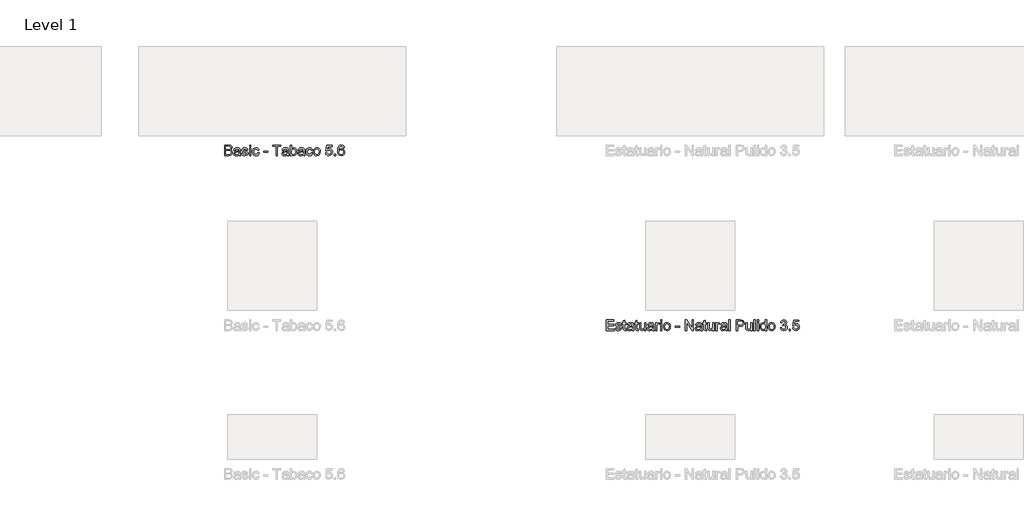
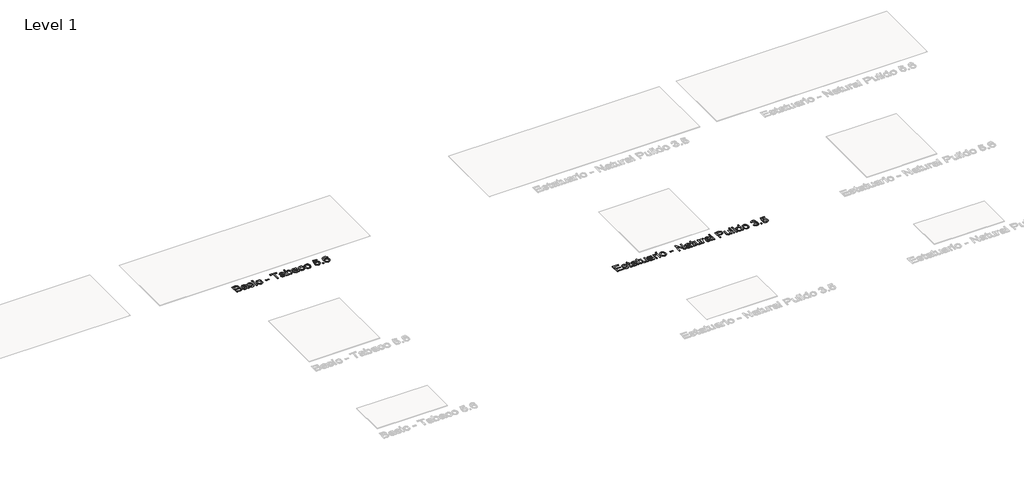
# One storey, part 76 of 80: 2 proxies.
"""IFC4 building model written with IfcOpenShell, lengths in millimetres."""

from ifc_helpers import new_model, si_unit, origin, origin_with_axes, place, context, project, spatial, polyline, outline, extrude, element, save

model = new_model("IFC4")

# Units and contexts
model_context = context("Model", 3, world=origin())
ifc_project = project(units=[si_unit("LENGTHUNIT", "METRE", prefix="MILLI")], contexts=[model_context])

# Site, building, storey
site = spatial("IfcSite", under=ifc_project)
building = spatial("IfcBuilding", under=site)
storey = spatial("IfcBuildingStorey", under=building, Name="Level 1", Elevation=0.0)

# Proxies
placement = place(None, origin())
element("IfcBuildingElementProxy", 1, Name="24\" Arial", ObjectType="24\" Arial", at=placement, inside=storey, context=model_context, shape_type="SweptSolid", body=[
    extrude(outline(polyline([(300.0008152, 19224.0250725), (300.0008152, 19342.1789187), (345.0873536, 19342.1789187), (367.1690844, 19338.7029571), (380.2075459, 19328.0154571), (384.9238921, 19312.9000725), (380.9575459, 19299.0971879), (368.971969, 19288.6404571), (383.5248536, 19277.6212264), (388.6161998, 19259.2462264), (385.1402383, 19243.3664187), (376.5296613, 19232.0587264), (363.6786998, 19226.0587264), (344.7411998, 19224.0250725), (300.0008152, 19224.0250725)]), holes=[polyline([(314.7700459, 19238.7943033), (345.0585075, 19238.7943033), (356.0200459, 19239.3712264), (365.2940844, 19242.5875725), (371.4383152, 19249.1500725), (373.846969, 19259.1019956), (371.0200459, 19270.5827648), (361.8613921, 19277.4337264), (343.6161998, 19279.4096879), (314.7700459, 19279.4096879), (314.7700459, 19238.7943033)]), polyline([(314.7700459, 19294.1789187), (341.7411998, 19294.1789187), (357.4911998, 19295.4481494), (366.9671613, 19300.9144956), (370.1546613, 19310.5346879), (367.1835075, 19320.1693033), (358.6738921, 19325.8664187), (339.6931229, 19327.4096879), (314.7700459, 19327.4096879), (314.7700459, 19294.1789187)])]), origin_with_axes(), (0.0, 0.0, 1.0), 2.0),
    extrude(outline(polyline([(462.4623536, 19235.1019956), (448.1402383, 19225.0923802), (432.3181229, 19222.1789187), (419.9755748, 19223.9313225), (410.8710075, 19229.188534), (405.2568248, 19237.1717071), (403.3854306, 19247.1019956), (406.2123536, 19258.7846879), (413.6402383, 19267.2654571), (423.9815844, 19272.111611), (436.7604306, 19274.3327648), (462.3758152, 19279.4096879), (462.4623536, 19282.6981494), (458.3950459, 19293.6019956), (442.0681229, 19297.8712264), (427.1258152, 19295.0298802), (420.0008152, 19284.9481494), (405.2315844, 19286.7943033), (411.6210075, 19301.2173802), (424.4863921, 19309.6693033), (443.971969, 19312.6404571), (461.8710075, 19310.0154571), (471.9815844, 19303.424111), (476.5104306, 19293.4000725), (477.2315844, 19280.4769956), (477.2315844, 19262.1019956), (477.9815844, 19236.4433417), (480.9238921, 19224.0250725), (466.1546613, 19224.0250725), (462.4623536, 19235.1019956)]), holes=[polyline([(462.4623536, 19264.6404571), (438.6354306, 19260.111611), (425.9286998, 19257.7173802), (420.1738921, 19253.8231494), (418.1546613, 19248.1404571), (422.5536998, 19240.1500725), (435.4623536, 19236.9481494), (450.4046613, 19240.4818033), (460.0392767, 19249.0346879), (462.3758152, 19260.4577648), (462.4623536, 19264.6404571)])]), origin_with_axes(), (0.0, 0.0, 1.0), 2.0),
    extrude(outline(polyline([(492.0008152, 19249.8712264), (506.7700459, 19251.7173802), (513.6065844, 19240.7558417), (529.2700459, 19236.9481494), (544.3277383, 19240.438534), (549.2315844, 19248.6308417), (544.2988921, 19255.2654571), (529.096969, 19259.4769956), (506.8565844, 19266.7029571), (497.1498536, 19275.1404571), (493.846969, 19287.0539187), (496.5008152, 19298.0587264), (503.7411998, 19306.4673802), (513.1306229, 19310.8375725), (525.8373536, 19312.6404571), (543.8085075, 19309.7414187), (555.2315844, 19301.8952648), (560.3085075, 19288.6404571), (545.5392767, 19286.7943033), (539.9863921, 19294.9433417), (526.9911998, 19297.8712264), (512.8565844, 19295.0731494), (508.6161998, 19288.5539187), (510.3758152, 19284.2558417), (515.8854306, 19280.9962264), (528.6065844, 19277.8519956), (550.284469, 19270.9000725), (560.3517767, 19263.0250725), (564.0008152, 19250.188534), (559.7171613, 19236.0539187), (547.3565844, 19225.799111), (529.0681229, 19222.1789187), (514.1762959, 19223.924111), (503.3085075, 19229.1596879), (496.0536998, 19237.8279571), (492.0008152, 19249.8712264)])), origin_with_axes(), (0.0, 0.0, 1.0), 2.0),
    extrude(outline(polyline([(580.6161998, 19224.0250725), (580.6161998, 19310.7943033), (595.3854306, 19310.7943033), (595.3854306, 19224.0250725), (580.6161998, 19224.0250725)])), origin_with_axes(), (0.0, 0.0, 1.0), 2.0),
    extrude(outline(polyline([(580.6161998, 19327.4096879), (580.6161998, 19342.1789187), (595.3854306, 19342.1789187), (595.3854306, 19327.4096879), (580.6161998, 19327.4096879)])), origin_with_axes(), (0.0, 0.0, 1.0), 2.0),
    extrude(outline(polyline([(672.9238921, 19255.4096879), (687.6931229, 19253.563534), (683.5753344, 19240.4277167), (675.8373536, 19230.501034), (665.2075459, 19224.2594475), (652.4142767, 19222.1789187), (636.7039402, 19225.0815629), (624.4190844, 19233.7894956), (616.4899979, 19247.9205052), (613.846969, 19267.0923802), (618.3613921, 19291.626034), (624.0585075, 19300.8243514), (632.1210075, 19307.3904571), (652.2123536, 19312.6404571), (664.6919209, 19310.8375725), (674.6690844, 19305.4289187), (681.8265363, 19296.7029571), (685.846969, 19284.9481494), (671.0777383, 19283.1019956), (664.2267767, 19294.1644956), (652.3277383, 19297.8712264), (642.7832671, 19296.0467071), (635.2075459, 19290.5731494), (630.2640363, 19281.1548802), (628.6161998, 19267.4962264), (630.2279786, 19253.6536783), (635.0633152, 19244.2029571), (642.5020171, 19238.7618514), (651.9238921, 19236.9481494), (665.8421613, 19241.4769956), (672.9238921, 19255.4096879)])), origin_with_axes(), (0.0, 0.0, 1.0), 2.0),
    extrude(outline(polyline([(739.3854306, 19259.1019956), (739.3854306, 19273.8712264), (785.5392767, 19273.8712264), (785.5392767, 19259.1019956), (739.3854306, 19259.1019956)])), origin_with_axes(), (0.0, 0.0, 1.0), 2.0),
    extrude(outline(polyline([(879.6931229, 19224.0250725), (879.6931229, 19327.4096879), (840.9238921, 19327.4096879), (840.9238921, 19342.1789187), (933.2315844, 19342.1789187), (933.2315844, 19327.4096879), (894.4623536, 19327.4096879), (894.4623536, 19224.0250725), (879.6931229, 19224.0250725)])), origin_with_axes(), (0.0, 0.0, 1.0), 2.0),
    extrude(outline(polyline([(1003.3854306, 19235.1019956), (989.0633152, 19225.0923802), (973.2411998, 19222.1789187), (960.8986517, 19223.9313225), (951.7940844, 19229.188534), (946.1799017, 19237.1717071), (944.3085075, 19247.1019956), (947.1354306, 19258.7846879), (954.5633152, 19267.2654571), (964.9046613, 19272.111611), (977.6835075, 19274.3327648), (1003.2988921, 19279.4096879), (1003.3854306, 19282.6981494), (999.3181229, 19293.6019956), (982.9911998, 19297.8712264), (968.0488921, 19295.0298802), (960.9238921, 19284.9481494), (946.1546613, 19286.7943033), (952.5440844, 19301.2173802), (965.409469, 19309.6693033), (984.8950459, 19312.6404571), (1002.7940844, 19310.0154571), (1012.9046613, 19303.424111), (1017.4335075, 19293.4000725), (1018.1546613, 19280.4769956), (1018.1546613, 19262.1019956), (1018.9046613, 19236.4433417), (1021.846969, 19224.0250725), (1007.0777383, 19224.0250725), (1003.3854306, 19235.1019956)]), holes=[polyline([(1003.3854306, 19264.6404571), (979.5585075, 19260.111611), (966.8517767, 19257.7173802), (961.096969, 19253.8231494), (959.0777383, 19248.1404571), (963.4767767, 19240.1500725), (976.3854306, 19236.9481494), (991.3277383, 19240.4818033), (1000.9623536, 19249.0346879), (1003.2988921, 19260.4577648), (1003.3854306, 19264.6404571)])]), origin_with_axes(), (0.0, 0.0, 1.0), 2.0),
    extrude(outline(polyline([(1053.2315844, 19224.0250725), (1038.4623536, 19224.0250725), (1038.4623536, 19342.1789187), (1053.2315844, 19342.1789187), (1053.2315844, 19298.361611), (1063.5729306, 19309.0707456), (1076.4238921, 19312.6404571), (1091.221969, 19309.424111), (1102.7027383, 19300.3808417), (1109.7556229, 19286.3183417), (1112.3085075, 19268.7077648), (1109.6654786, 19248.9914187), (1101.7363921, 19234.3231494), (1090.1005748, 19225.2149764), (1076.3373536, 19222.1789187), (1063.2051421, 19226.094784), (1053.2315844, 19237.8423802), (1053.2315844, 19224.0250725)]), holes=[polyline([(1053.2315844, 19268.0154571), (1057.2700459, 19247.361611), (1065.0080267, 19239.5515148), (1075.0681229, 19236.9481494), (1083.5921613, 19238.8664187), (1090.8758152, 19244.6212264), (1095.8734113, 19254.1765148), (1097.5392767, 19267.4962264), (1095.9419209, 19281.0106494), (1091.1498536, 19290.4577648), (1084.0933633, 19296.017861), (1075.7027383, 19297.8712264), (1067.1786998, 19295.9529571), (1059.8950459, 19290.1981494), (1054.8974498, 19280.8159379), (1053.2315844, 19268.0154571)])]), origin_with_axes(), (0.0, 0.0, 1.0), 2.0),
    extrude(outline(polyline([(1184.3085075, 19235.1019956), (1169.9863921, 19225.0923802), (1154.1642767, 19222.1789187), (1141.8217286, 19223.9313225), (1132.7171613, 19229.188534), (1127.1029786, 19237.1717071), (1125.2315844, 19247.1019956), (1128.0585075, 19258.7846879), (1135.4863921, 19267.2654571), (1145.8277383, 19272.111611), (1158.6065844, 19274.3327648), (1184.221969, 19279.4096879), (1184.3085075, 19282.6981494), (1180.2411998, 19293.6019956), (1163.9142767, 19297.8712264), (1148.971969, 19295.0298802), (1141.846969, 19284.9481494), (1127.0777383, 19286.7943033), (1133.4671613, 19301.2173802), (1146.3325459, 19309.6693033), (1165.8181229, 19312.6404571), (1183.7171613, 19310.0154571), (1193.8277383, 19303.424111), (1198.3565844, 19293.4000725), (1199.0777383, 19280.4769956), (1199.0777383, 19262.1019956), (1199.8277383, 19236.4433417), (1202.7700459, 19224.0250725), (1188.0008152, 19224.0250725), (1184.3085075, 19235.1019956)]), holes=[polyline([(1184.3085075, 19264.6404571), (1160.4815844, 19260.111611), (1147.7748536, 19257.7173802), (1142.0200459, 19253.8231494), (1140.0008152, 19248.1404571), (1144.3998536, 19240.1500725), (1157.3085075, 19236.9481494), (1172.2508152, 19240.4818033), (1181.8854306, 19249.0346879), (1184.221969, 19260.4577648), (1184.3085075, 19264.6404571)])]), origin_with_axes(), (0.0, 0.0, 1.0), 2.0),
    extrude(outline(polyline([(1274.7700459, 19255.4096879), (1289.5392767, 19253.563534), (1285.4214883, 19240.4277167), (1277.6835075, 19230.501034), (1267.0536998, 19224.2594475), (1254.2604306, 19222.1789187), (1238.550094, 19225.0815629), (1226.2652383, 19233.7894956), (1218.3361517, 19247.9205052), (1215.6931229, 19267.0923802), (1220.2075459, 19291.626034), (1225.9046613, 19300.8243514), (1233.9671613, 19307.3904571), (1254.0585075, 19312.6404571), (1266.5380748, 19310.8375725), (1276.5152383, 19305.4289187), (1283.6726902, 19296.7029571), (1287.6931229, 19284.9481494), (1272.9238921, 19283.1019956), (1266.0729306, 19294.1644956), (1254.1738921, 19297.8712264), (1244.6294209, 19296.0467071), (1237.0536998, 19290.5731494), (1232.1101902, 19281.1548802), (1230.4623536, 19267.4962264), (1232.0741325, 19253.6536783), (1236.909469, 19244.2029571), (1244.3481709, 19238.7618514), (1253.7700459, 19236.9481494), (1267.6883152, 19241.4769956), (1274.7700459, 19255.4096879)])), origin_with_axes(), (0.0, 0.0, 1.0), 2.0),
    extrude(outline(polyline([(1298.7700459, 19267.4096879), (1301.9647575, 19288.330361), (1311.5488921, 19303.0346879), (1323.3902383, 19310.2390148), (1337.5681229, 19312.6404571), (1353.0837479, 19309.7161783), (1365.4767767, 19300.9433417), (1373.6005748, 19287.0142552), (1376.3085075, 19268.6212264), (1371.5200459, 19242.3423802), (1357.5729306, 19227.4721879), (1337.5681229, 19222.1789187), (1321.8649979, 19225.0923802), (1309.4863921, 19233.8327648), (1301.4491325, 19248.0539187), (1298.7700459, 19267.4096879)]), holes=[polyline([(1313.5392767, 19267.438534), (1315.2484113, 19254.0719475), (1320.3758152, 19244.549111), (1328.0921613, 19238.8483898), (1337.5681229, 19236.9481494), (1347.0008152, 19238.8592071), (1354.7027383, 19244.5923802), (1359.8301421, 19254.2414187), (1361.5392767, 19267.9000725), (1359.8193248, 19280.877236), (1354.659469, 19290.2702648), (1346.9467286, 19295.970986), (1337.5681229, 19297.8712264), (1328.0921613, 19295.9781975), (1320.3758152, 19290.299111), (1315.2484113, 19280.797909), (1313.5392767, 19267.438534)])]), origin_with_axes(), (0.0, 0.0, 1.0), 2.0),
    extrude(outline(polyline([(1435.3854306, 19255.4096879), (1450.1546613, 19257.2558417), (1457.596969, 19242.0394956), (1473.0296613, 19236.9481494), (1483.6161998, 19238.7185821), (1491.5488921, 19244.0298802), (1496.503219, 19252.2690629), (1498.1546613, 19262.8231494), (1496.6077863, 19272.7606494), (1491.9671613, 19280.361611), (1484.1967286, 19285.1861302), (1473.2604306, 19286.7943033), (1460.2940844, 19284.2269956), (1452.0008152, 19277.563534), (1437.2315844, 19279.4096879), (1450.1546613, 19340.3327648), (1507.3854306, 19340.3327648), (1507.3854306, 19325.563534), (1462.096969, 19325.563534), (1455.7796613, 19293.0250725), (1466.3301421, 19299.4289187), (1477.3854306, 19301.563534), (1491.1847094, 19298.9168994), (1502.6402383, 19290.9769956), (1510.3529786, 19278.876034), (1512.9238921, 19263.7462264), (1510.6089883, 19248.9769956), (1503.6642767, 19236.3423802), (1490.3661998, 19225.719784), (1472.971969, 19222.1789187), (1458.4659594, 19224.454159), (1446.909469, 19231.2798802), (1438.987594, 19241.8628129), (1435.3854306, 19255.4096879)])), origin_with_axes(), (0.0, 0.0, 1.0), 2.0),
    extrude(outline(polyline([(1533.2315844, 19224.0250725), (1533.2315844, 19238.7943033), (1548.0008152, 19238.7943033), (1548.0008152, 19224.0250725), (1533.2315844, 19224.0250725)])), origin_with_axes(), (0.0, 0.0, 1.0), 2.0),
    extrude(outline(polyline([(1647.6931229, 19310.7943033), (1632.9238921, 19308.9481494), (1627.3277383, 19321.2654571), (1620.628219, 19325.8736302), (1612.5296613, 19327.4096879), (1599.2027383, 19323.8327648), (1589.1210075, 19310.4048802), (1584.9238921, 19284.0827648), (1597.9479306, 19295.8664187), (1614.0873536, 19299.7173802), (1627.7315844, 19297.0851687), (1639.1835075, 19289.188534), (1646.9503344, 19277.1236302), (1649.5392767, 19261.986611), (1644.6642767, 19241.6068033), (1631.2508152, 19227.1837264), (1611.8950459, 19222.1789187), (1595.1390363, 19225.4962264), (1581.7940844, 19235.4481494), (1573.0645171, 19253.0154571), (1570.1546613, 19279.1789187), (1573.3854306, 19308.594784), (1583.0777383, 19328.7077648), (1596.3109113, 19338.8111302), (1613.4527383, 19342.1789187), (1626.4118729, 19340.094784), (1636.7892767, 19333.8423802), (1644.0585075, 19323.9120917), (1647.6931229, 19310.7943033)]), holes=[polyline([(1584.9238921, 19262.2173802), (1588.3421613, 19249.424111), (1597.4286998, 19240.1356494), (1610.7411998, 19236.9481494), (1620.487594, 19238.5995917), (1628.1498536, 19243.5539187), (1633.1149979, 19251.3423802), (1634.7700459, 19261.4962264), (1633.1366325, 19271.2426206), (1628.2363921, 19278.674111), (1620.4443248, 19283.3796398), (1610.1354306, 19284.9481494), (1600.4034594, 19283.3796398), (1592.2652383, 19278.674111), (1586.7592286, 19271.422909), (1584.9238921, 19262.2173802)])]), origin_with_axes(), (0.0, 0.0, 1.0), 2.0),
])
element("IfcBuildingElementProxy", 2, Name="24\" Arial", ObjectType="24\" Arial", at=placement, inside=storey, context=model_context, shape_type="SweptSolid", body=[
    extrude(outline(polyline([(4590.1546613, 17258.6980297), (4590.1546613, 17376.8518759), (4675.0777383, 17376.8518759), (4675.0777383, 17362.0826451), (4604.9238921, 17362.0826451), (4604.9238921, 17327.005722), (4671.3854306, 17327.005722), (4671.3854306, 17312.2364912), (4604.9238921, 17312.2364912), (4604.9238921, 17273.4672605), (4676.9238921, 17273.4672605), (4676.9238921, 17258.6980297), (4590.1546613, 17258.6980297)])), origin_with_axes(), (0.0, 0.0, 1.0), 2.0),
    extrude(outline(polyline([(4691.6931229, 17284.5441836), (4706.4623536, 17286.3903374), (4713.2988921, 17275.4287989), (4728.9623536, 17271.6211066), (4744.0200459, 17275.1114912), (4748.9238921, 17283.3037989), (4743.9911998, 17289.9384143), (4728.7892767, 17294.1499528), (4706.5488921, 17301.3759143), (4696.8421613, 17309.8134143), (4693.5392767, 17321.7268759), (4696.1931229, 17332.7316836), (4703.4335075, 17341.1403374), (4712.8229306, 17345.5105297), (4725.5296613, 17347.3134143), (4743.5008152, 17344.4143759), (4754.9238921, 17336.568222), (4760.0008152, 17323.3134143), (4745.2315844, 17321.4672605), (4739.6786998, 17329.6162989), (4726.6835075, 17332.5441836), (4712.5488921, 17329.7461066), (4708.3085075, 17323.2268759), (4710.0681229, 17318.9287989), (4715.5777383, 17315.6691836), (4728.2988921, 17312.5249528), (4749.9767767, 17305.5730297), (4760.0440844, 17297.6980297), (4763.6931229, 17284.8614912), (4759.409469, 17270.7268759), (4747.0488921, 17260.4720682), (4728.7604306, 17256.8518759), (4713.8686036, 17258.5970682), (4703.0008152, 17263.8326451), (4695.7460075, 17272.5009143), (4691.6931229, 17284.5441836)])), origin_with_axes(), (0.0, 0.0, 1.0), 2.0),
    extrude(outline(polyline([(4811.6931229, 17271.0153374), (4813.5392767, 17258.2653374), (4802.4911998, 17256.8518759), (4790.1161998, 17259.3037989), (4783.9431229, 17265.7364912), (4782.1546613, 17282.4961066), (4782.1546613, 17330.6980297), (4771.0777383, 17330.6980297), (4771.0777383, 17345.4672605), (4782.1546613, 17345.4672605), (4782.1546613, 17366.5537989), (4796.9238921, 17375.2364912), (4796.9238921, 17345.4672605), (4811.6931229, 17345.4672605), (4811.6931229, 17330.6980297), (4796.9238921, 17330.6980297), (4796.9238921, 17282.9287989), (4797.7027383, 17275.3134143), (4800.2267767, 17272.6162989), (4805.2604306, 17271.6211066), (4811.6931229, 17271.0153374)])), origin_with_axes(), (0.0, 0.0, 1.0), 2.0),
    extrude(outline(polyline([(4881.846969, 17269.7749528), (4867.5248536, 17259.7653374), (4851.7027383, 17256.8518759), (4839.3601902, 17258.6042797), (4830.2556229, 17263.8614912), (4824.6414402, 17271.8446643), (4822.7700459, 17281.7749528), (4825.596969, 17293.4576451), (4833.0248536, 17301.9384143), (4843.3661998, 17306.7845682), (4856.1450459, 17309.005722), (4881.7604306, 17314.0826451), (4881.846969, 17317.3711066), (4877.7796613, 17328.2749528), (4861.4527383, 17332.5441836), (4846.5104306, 17329.7028374), (4839.3854306, 17319.6211066), (4824.6161998, 17321.4672605), (4831.0056229, 17335.8903374), (4843.8710075, 17344.3422605), (4863.3565844, 17347.3134143), (4881.2556229, 17344.6884143), (4891.3661998, 17338.0970682), (4895.8950459, 17328.0730297), (4896.6161998, 17315.1499528), (4896.6161998, 17296.7749528), (4897.3661998, 17271.1162989), (4900.3085075, 17258.6980297), (4885.5392767, 17258.6980297), (4881.846969, 17269.7749528)]), holes=[polyline([(4881.846969, 17299.3134143), (4858.0200459, 17294.7845682), (4845.3133152, 17292.3903374), (4839.5585075, 17288.4961066), (4837.5392767, 17282.8134143), (4841.9383152, 17274.8230297), (4854.846969, 17271.6211066), (4869.7892767, 17275.1547605), (4879.4238921, 17283.7076451), (4881.7604306, 17295.130722), (4881.846969, 17299.3134143)])]), origin_with_axes(), (0.0, 0.0, 1.0), 2.0),
    extrude(outline(polyline([(4948.3085075, 17271.0153374), (4950.1546613, 17258.2653374), (4939.1065844, 17256.8518759), (4926.7315844, 17259.3037989), (4920.5585075, 17265.7364912), (4918.7700459, 17282.4961066), (4918.7700459, 17330.6980297), (4907.6931229, 17330.6980297), (4907.6931229, 17345.4672605), (4918.7700459, 17345.4672605), (4918.7700459, 17366.5537989), (4933.5392767, 17375.2364912), (4933.5392767, 17345.4672605), (4948.3085075, 17345.4672605), (4948.3085075, 17330.6980297), (4933.5392767, 17330.6980297), (4933.5392767, 17282.9287989), (4934.3181229, 17275.3134143), (4936.8421613, 17272.6162989), (4941.8758152, 17271.6211066), (4948.3085075, 17271.0153374)])), origin_with_axes(), (0.0, 0.0, 1.0), 2.0),
    extrude(outline(polyline([(5018.4623536, 17258.6980297), (5018.4623536, 17273.6114912), (5006.8950459, 17261.0417797), (4991.8085075, 17256.8518759), (4977.9190844, 17259.7941836), (4968.3421613, 17267.1787989), (4963.9431229, 17278.0537989), (4963.0777383, 17291.7845682), (4963.0777383, 17345.4672605), (4977.846969, 17345.4672605), (4977.846969, 17298.7364912), (4978.7411998, 17283.6787989), (4984.5825459, 17274.8374528), (4995.5873536, 17271.6211066), (5007.9190844, 17274.9095682), (5016.0681229, 17283.8662989), (5018.4623536, 17300.3230297), (5018.4623536, 17345.4672605), (5033.2315844, 17345.4672605), (5033.2315844, 17258.6980297), (5018.4623536, 17258.6980297)])), origin_with_axes(), (0.0, 0.0, 1.0), 2.0),
    extrude(outline(polyline([(5108.9238921, 17269.7749528), (5094.6017767, 17259.7653374), (5078.7796613, 17256.8518759), (5066.4371133, 17258.6042797), (5057.3325459, 17263.8614912), (5051.7183633, 17271.8446643), (5049.846969, 17281.7749528), (5052.6738921, 17293.4576451), (5060.1017767, 17301.9384143), (5070.4431229, 17306.7845682), (5083.221969, 17309.005722), (5108.8373536, 17314.0826451), (5108.9238921, 17317.3711066), (5104.8565844, 17328.2749528), (5088.5296613, 17332.5441836), (5073.5873536, 17329.7028374), (5066.4623536, 17319.6211066), (5051.6931229, 17321.4672605), (5058.0825459, 17335.8903374), (5070.9479306, 17344.3422605), (5090.4335075, 17347.3134143), (5108.3325459, 17344.6884143), (5118.4431229, 17338.0970682), (5122.971969, 17328.0730297), (5123.6931229, 17315.1499528), (5123.6931229, 17296.7749528), (5124.4431229, 17271.1162989), (5127.3854306, 17258.6980297), (5112.6161998, 17258.6980297), (5108.9238921, 17269.7749528)]), holes=[polyline([(5108.9238921, 17299.3134143), (5085.096969, 17294.7845682), (5072.3902383, 17292.3903374), (5066.6354306, 17288.4961066), (5064.6161998, 17282.8134143), (5069.0152383, 17274.8230297), (5081.9238921, 17271.6211066), (5096.8661998, 17275.1547605), (5106.5008152, 17283.7076451), (5108.8373536, 17295.130722), (5108.9238921, 17299.3134143)])]), origin_with_axes(), (0.0, 0.0, 1.0), 2.0),
    extrude(outline(polyline([(5144.0008152, 17258.6980297), (5144.0008152, 17345.4672605), (5156.9238921, 17345.4672605), (5156.9238921, 17332.630722), (5166.096969, 17344.4576451), (5175.3277383, 17347.3134143), (5190.1546613, 17342.755722), (5185.221969, 17329.5153374), (5174.8373536, 17332.5441836), (5166.4863921, 17329.630722), (5161.1642767, 17321.5537989), (5158.7700459, 17304.3037989), (5158.7700459, 17258.6980297), (5144.0008152, 17258.6980297)])), origin_with_axes(), (0.0, 0.0, 1.0), 2.0),
    extrude(outline(polyline([(5199.3854306, 17362.0826451), (5199.3854306, 17376.8518759), (5214.1546613, 17376.8518759), (5214.1546613, 17362.0826451), (5199.3854306, 17362.0826451)])), origin_with_axes(), (0.0, 0.0, 1.0), 2.0),
    extrude(outline(polyline([(5199.3854306, 17258.6980297), (5199.3854306, 17345.4672605), (5214.1546613, 17345.4672605), (5214.1546613, 17258.6980297), (5199.3854306, 17258.6980297)])), origin_with_axes(), (0.0, 0.0, 1.0), 2.0),
    extrude(outline(polyline([(5232.6161998, 17302.0826451), (5235.8109113, 17323.0033182), (5245.3950459, 17337.7076451), (5257.2363921, 17344.911972), (5271.4142767, 17347.3134143), (5286.9299017, 17344.3891355), (5299.3229306, 17335.6162989), (5307.4467286, 17321.6872124), (5310.1546613, 17303.2941836), (5305.3661998, 17277.0153374), (5291.4190844, 17262.1451451), (5271.4142767, 17256.8518759), (5255.7111517, 17259.7653374), (5243.3325459, 17268.505722), (5235.2952863, 17282.7268759), (5232.6161998, 17302.0826451)]), holes=[polyline([(5247.3854306, 17302.1114912), (5249.0945652, 17288.7449047), (5254.221969, 17279.2220682), (5261.9383152, 17273.521347), (5271.4142767, 17271.6211066), (5280.846969, 17273.5321643), (5288.5488921, 17279.2653374), (5293.6762959, 17288.9143759), (5295.3854306, 17302.5730297), (5293.6654786, 17315.5501932), (5288.5056229, 17324.943222), (5280.7928825, 17330.6439432), (5271.4142767, 17332.5441836), (5261.9383152, 17330.6511547), (5254.221969, 17324.9720682), (5249.0945652, 17315.4708662), (5247.3854306, 17302.1114912)])]), origin_with_axes(), (0.0, 0.0, 1.0), 2.0),
    extrude(outline(polyline([(5365.5392767, 17293.7749528), (5365.5392767, 17308.5441836), (5411.6931229, 17308.5441836), (5411.6931229, 17293.7749528), (5365.5392767, 17293.7749528)])), origin_with_axes(), (0.0, 0.0, 1.0), 2.0),
    extrude(outline(polyline([(5476.3085075, 17258.6980297), (5476.3085075, 17376.8518759), (5492.1161998, 17376.8518759), (5553.846969, 17283.2461066), (5553.846969, 17376.8518759), (5568.6161998, 17376.8518759), (5568.6161998, 17258.6980297), (5552.8085075, 17258.6980297), (5491.0777383, 17352.3326451), (5491.0777383, 17258.6980297), (5476.3085075, 17258.6980297)])), origin_with_axes(), (0.0, 0.0, 1.0), 2.0),
    extrude(outline(polyline([(5648.0008152, 17269.7749528), (5633.6786998, 17259.7653374), (5617.8565844, 17256.8518759), (5605.5140363, 17258.6042797), (5596.409469, 17263.8614912), (5590.7952863, 17271.8446643), (5588.9238921, 17281.7749528), (5591.7508152, 17293.4576451), (5599.1786998, 17301.9384143), (5609.5200459, 17306.7845682), (5622.2988921, 17309.005722), (5647.9142767, 17314.0826451), (5648.0008152, 17317.3711066), (5643.9335075, 17328.2749528), (5627.6065844, 17332.5441836), (5612.6642767, 17329.7028374), (5605.5392767, 17319.6211066), (5590.7700459, 17321.4672605), (5597.159469, 17335.8903374), (5610.0248536, 17344.3422605), (5629.5104306, 17347.3134143), (5647.409469, 17344.6884143), (5657.5200459, 17338.0970682), (5662.0488921, 17328.0730297), (5662.7700459, 17315.1499528), (5662.7700459, 17296.7749528), (5663.5200459, 17271.1162989), (5666.4623536, 17258.6980297), (5651.6931229, 17258.6980297), (5648.0008152, 17269.7749528)]), holes=[polyline([(5648.0008152, 17299.3134143), (5624.1738921, 17294.7845682), (5611.4671613, 17292.3903374), (5605.7123536, 17288.4961066), (5603.6931229, 17282.8134143), (5608.0921613, 17274.8230297), (5621.0008152, 17271.6211066), (5635.9431229, 17275.1547605), (5645.5777383, 17283.7076451), (5647.9142767, 17295.130722), (5648.0008152, 17299.3134143)])]), origin_with_axes(), (0.0, 0.0, 1.0), 2.0),
    extrude(outline(polyline([(5714.4623536, 17271.0153374), (5716.3085075, 17258.2653374), (5705.2604306, 17256.8518759), (5692.8854306, 17259.3037989), (5686.7123536, 17265.7364912), (5684.9238921, 17282.4961066), (5684.9238921, 17330.6980297), (5673.846969, 17330.6980297), (5673.846969, 17345.4672605), (5684.9238921, 17345.4672605), (5684.9238921, 17366.5537989), (5699.6931229, 17375.2364912), (5699.6931229, 17345.4672605), (5714.4623536, 17345.4672605), (5714.4623536, 17330.6980297), (5699.6931229, 17330.6980297), (5699.6931229, 17282.9287989), (5700.471969, 17275.3134143), (5702.9960075, 17272.6162989), (5708.0296613, 17271.6211066), (5714.4623536, 17271.0153374)])), origin_with_axes(), (0.0, 0.0, 1.0), 2.0),
    extrude(outline(polyline([(5784.6161998, 17258.6980297), (5784.6161998, 17273.6114912), (5773.0488921, 17261.0417797), (5757.9623536, 17256.8518759), (5744.0729306, 17259.7941836), (5734.4960075, 17267.1787989), (5730.096969, 17278.0537989), (5729.2315844, 17291.7845682), (5729.2315844, 17345.4672605), (5744.0008152, 17345.4672605), (5744.0008152, 17298.7364912), (5744.8950459, 17283.6787989), (5750.7363921, 17274.8374528), (5761.7411998, 17271.6211066), (5774.0729306, 17274.9095682), (5782.221969, 17283.8662989), (5784.6161998, 17300.3230297), (5784.6161998, 17345.4672605), (5799.3854306, 17345.4672605), (5799.3854306, 17258.6980297), (5784.6161998, 17258.6980297)])), origin_with_axes(), (0.0, 0.0, 1.0), 2.0),
    extrude(outline(polyline([(5819.6931229, 17258.6980297), (5819.6931229, 17345.4672605), (5832.6161998, 17345.4672605), (5832.6161998, 17332.630722), (5841.7892767, 17344.4576451), (5851.0200459, 17347.3134143), (5865.846969, 17342.755722), (5860.9142767, 17329.5153374), (5850.5296613, 17332.5441836), (5842.1786998, 17329.630722), (5836.8565844, 17321.5537989), (5834.4623536, 17304.3037989), (5834.4623536, 17258.6980297), (5819.6931229, 17258.6980297)])), origin_with_axes(), (0.0, 0.0, 1.0), 2.0),
    extrude(outline(polyline([(5930.4623536, 17269.7749528), (5916.1402383, 17259.7653374), (5900.3181229, 17256.8518759), (5887.9755748, 17258.6042797), (5878.8710075, 17263.8614912), (5873.2568248, 17271.8446643), (5871.3854306, 17281.7749528), (5874.2123536, 17293.4576451), (5881.6402383, 17301.9384143), (5891.9815844, 17306.7845682), (5904.7604306, 17309.005722), (5930.3758152, 17314.0826451), (5930.4623536, 17317.3711066), (5926.3950459, 17328.2749528), (5910.0681229, 17332.5441836), (5895.1258152, 17329.7028374), (5888.0008152, 17319.6211066), (5873.2315844, 17321.4672605), (5879.6210075, 17335.8903374), (5892.4863921, 17344.3422605), (5911.971969, 17347.3134143), (5929.8710075, 17344.6884143), (5939.9815844, 17338.0970682), (5944.5104306, 17328.0730297), (5945.2315844, 17315.1499528), (5945.2315844, 17296.7749528), (5945.9815844, 17271.1162989), (5948.9238921, 17258.6980297), (5934.1546613, 17258.6980297), (5930.4623536, 17269.7749528)]), holes=[polyline([(5930.4623536, 17299.3134143), (5906.6354306, 17294.7845682), (5893.9286998, 17292.3903374), (5888.1738921, 17288.4961066), (5886.1546613, 17282.8134143), (5890.5536998, 17274.8230297), (5903.4623536, 17271.6211066), (5918.4046613, 17275.1547605), (5928.0392767, 17283.7076451), (5930.3758152, 17295.130722), (5930.4623536, 17299.3134143)])]), origin_with_axes(), (0.0, 0.0, 1.0), 2.0),
    extrude(outline(polyline([(5965.5392767, 17258.6980297), (5965.5392767, 17376.8518759), (5980.3085075, 17376.8518759), (5980.3085075, 17258.6980297), (5965.5392767, 17258.6980297)])), origin_with_axes(), (0.0, 0.0, 1.0), 2.0),
    extrude(outline(polyline([(6050.4623536, 17258.6980297), (6050.4623536, 17376.8518759), (6094.2508152, 17376.8518759), (6111.9046613, 17375.7268759), (6126.2556229, 17370.2028374), (6135.5585075, 17358.7797605), (6139.0777383, 17342.6691836), (6136.7015363, 17328.7437028), (6129.5729306, 17317.1403374), (6116.2424017, 17309.3086066), (6095.2604306, 17306.6980297), (6065.2315844, 17306.6980297), (6065.2315844, 17258.6980297), (6050.4623536, 17258.6980297)]), holes=[polyline([(6065.2315844, 17321.4672605), (6096.1258152, 17321.4672605), (6109.221969, 17322.8230297), (6117.8758152, 17326.8903374), (6122.7003344, 17333.4167797), (6124.3085075, 17342.1499528), (6120.5152383, 17354.380722), (6110.5488921, 17361.0730297), (6095.7796613, 17362.0826451), (6065.2315844, 17362.0826451), (6065.2315844, 17321.4672605)])]), origin_with_axes(), (0.0, 0.0, 1.0), 2.0),
    extrude(outline(polyline([(6212.9238921, 17258.6980297), (6212.9238921, 17273.6114912), (6201.3565844, 17261.0417797), (6186.2700459, 17256.8518759), (6172.3806229, 17259.7941836), (6162.8036998, 17267.1787989), (6158.4046613, 17278.0537989), (6157.5392767, 17291.7845682), (6157.5392767, 17345.4672605), (6172.3085075, 17345.4672605), (6172.3085075, 17298.7364912), (6173.2027383, 17283.6787989), (6179.0440844, 17274.8374528), (6190.0488921, 17271.6211066), (6202.3806229, 17274.9095682), (6210.5296613, 17283.8662989), (6212.9238921, 17300.3230297), (6212.9238921, 17345.4672605), (6227.6931229, 17345.4672605), (6227.6931229, 17258.6980297), (6212.9238921, 17258.6980297)])), origin_with_axes(), (0.0, 0.0, 1.0), 2.0),
    extrude(outline(polyline([(6248.0008152, 17258.6980297), (6248.0008152, 17376.8518759), (6262.7700459, 17376.8518759), (6262.7700459, 17258.6980297), (6248.0008152, 17258.6980297)])), origin_with_axes(), (0.0, 0.0, 1.0), 2.0),
    extrude(outline(polyline([(6284.9238921, 17362.0826451), (6284.9238921, 17376.8518759), (6299.6931229, 17376.8518759), (6299.6931229, 17362.0826451), (6284.9238921, 17362.0826451)])), origin_with_axes(), (0.0, 0.0, 1.0), 2.0),
    extrude(outline(polyline([(6284.9238921, 17258.6980297), (6284.9238921, 17345.4672605), (6299.6931229, 17345.4672605), (6299.6931229, 17258.6980297), (6284.9238921, 17258.6980297)])), origin_with_axes(), (0.0, 0.0, 1.0), 2.0),
    extrude(outline(polyline([(6375.3854306, 17258.6980297), (6375.3854306, 17272.630722), (6365.6137959, 17260.7965874), (6352.1065844, 17256.8518759), (6333.8181229, 17262.5634143), (6320.8950459, 17278.5009143), (6316.3085075, 17301.9961066), (6320.534469, 17325.505722), (6325.8133152, 17334.8302412), (6333.1979306, 17341.6884143), (6352.0488921, 17347.3134143), (6365.6642767, 17343.2893759), (6375.3854306, 17332.8326451), (6375.3854306, 17376.8518759), (6390.1546613, 17376.8518759), (6390.1546613, 17258.6980297), (6375.3854306, 17258.6980297)]), holes=[polyline([(6331.0777383, 17302.0537989), (6332.7436036, 17288.6944239), (6337.7411998, 17279.193222), (6345.003219, 17273.5141355), (6353.4623536, 17271.6211066), (6361.9178825, 17273.427597), (6368.9960075, 17278.8470682), (6373.7880748, 17287.9804816), (6375.3854306, 17300.9287989), (6373.7592286, 17315.0850489), (6368.8806229, 17324.8999528), (6361.6222094, 17330.6331259), (6352.8565844, 17332.5441836), (6344.3109113, 17330.708847), (6337.3085075, 17325.2028374), (6332.6354306, 17315.7449047), (6331.0777383, 17302.0537989)])]), origin_with_axes(), (0.0, 0.0, 1.0), 2.0),
    extrude(outline(polyline([(6408.6161998, 17302.0826451), (6411.8109113, 17323.0033182), (6421.3950459, 17337.7076451), (6433.2363921, 17344.911972), (6447.4142767, 17347.3134143), (6462.9299017, 17344.3891355), (6475.3229306, 17335.6162989), (6483.4467286, 17321.6872124), (6486.1546613, 17303.2941836), (6481.3661998, 17277.0153374), (6467.4190844, 17262.1451451), (6447.4142767, 17256.8518759), (6431.7111517, 17259.7653374), (6419.3325459, 17268.505722), (6411.2952863, 17282.7268759), (6408.6161998, 17302.0826451)]), holes=[polyline([(6423.3854306, 17302.1114912), (6425.0945652, 17288.7449047), (6430.221969, 17279.2220682), (6437.9383152, 17273.521347), (6447.4142767, 17271.6211066), (6456.846969, 17273.5321643), (6464.5488921, 17279.2653374), (6469.6762959, 17288.9143759), (6471.3854306, 17302.5730297), (6469.6654786, 17315.5501932), (6464.5056229, 17324.943222), (6456.7928825, 17330.6439432), (6447.4142767, 17332.5441836), (6437.9383152, 17330.6511547), (6430.221969, 17324.9720682), (6425.0945652, 17315.4708662), (6423.3854306, 17302.1114912)])]), origin_with_axes(), (0.0, 0.0, 1.0), 2.0),
    extrude(outline(polyline([(6545.2315844, 17290.0826451), (6560.0008152, 17291.9287989), (6568.1498536, 17276.380722), (6583.3950459, 17271.6211066), (6593.5200459, 17273.2581259), (6601.3373536, 17278.1691836), (6606.3349498, 17285.4961066), (6608.0008152, 17294.380722), (6606.3493729, 17302.8146162), (6601.3950459, 17309.6547605), (6593.8950459, 17314.1872124), (6584.6065844, 17315.6980297), (6574.2508152, 17314.0826451), (6575.8950459, 17328.8518759), (6578.2604306, 17328.6787989), (6595.0200459, 17332.9191836), (6600.6017767, 17338.2989912), (6602.4623536, 17345.9576451), (6597.0681229, 17357.5105297), (6583.1642767, 17362.0826451), (6569.0873536, 17357.4672605), (6561.846969, 17343.6211066), (6547.0777383, 17345.4672605), (6551.4262959, 17358.7292797), (6559.1642767, 17368.630722), (6569.7508152, 17374.7965874), (6582.6450459, 17376.8518759), (6600.4575459, 17372.7989912), (6612.9190844, 17361.7220682), (6617.2315844, 17346.8230297), (6613.1354306, 17333.2076451), (6601.0200459, 17323.4287989), (6610.2652383, 17319.693222), (6617.1161998, 17313.3326451), (6621.3565844, 17304.693222), (6622.7700459, 17294.1211066), (6619.9431229, 17279.7268759), (6611.4623536, 17267.6980297), (6598.6618729, 17259.5634143), (6582.8758152, 17256.8518759), (6568.596969, 17259.1667797), (6556.971969, 17266.1114912), (6548.8878344, 17276.7340874), (6545.2315844, 17290.0826451)])), origin_with_axes(), (0.0, 0.0, 1.0), 2.0),
    extrude(outline(polyline([(6643.0777383, 17258.6980297), (6643.0777383, 17273.4672605), (6657.846969, 17273.4672605), (6657.846969, 17258.6980297), (6643.0777383, 17258.6980297)])), origin_with_axes(), (0.0, 0.0, 1.0), 2.0),
    extrude(outline(polyline([(6681.846969, 17290.0826451), (6696.6161998, 17291.9287989), (6704.0585075, 17276.7124528), (6719.4911998, 17271.6211066), (6730.0777383, 17273.3915393), (6738.0104306, 17278.7028374), (6742.9647575, 17286.9420201), (6744.6161998, 17297.4961066), (6743.0693248, 17307.4336066), (6738.4286998, 17315.0345682), (6730.6582671, 17319.8590874), (6719.721969, 17321.4672605), (6706.7556229, 17318.8999528), (6698.4623536, 17312.2364912), (6683.6931229, 17314.0826451), (6696.6161998, 17375.005722), (6753.846969, 17375.005722), (6753.846969, 17360.2364912), (6708.5585075, 17360.2364912), (6702.2411998, 17327.6980297), (6712.7916806, 17334.1018759), (6723.846969, 17336.2364912), (6737.6462479, 17333.5898566), (6749.1017767, 17325.6499528), (6756.8145171, 17313.5489912), (6759.3854306, 17298.4191836), (6757.0705267, 17283.6499528), (6750.1258152, 17271.0153374), (6736.8277383, 17260.3927412), (6719.4335075, 17256.8518759), (6704.9274979, 17259.1271162), (6693.3710075, 17265.9528374), (6685.4491325, 17276.5357701), (6681.846969, 17290.0826451)])), origin_with_axes(), (0.0, 0.0, 1.0), 2.0),
])

save(model, "model.ifc")
